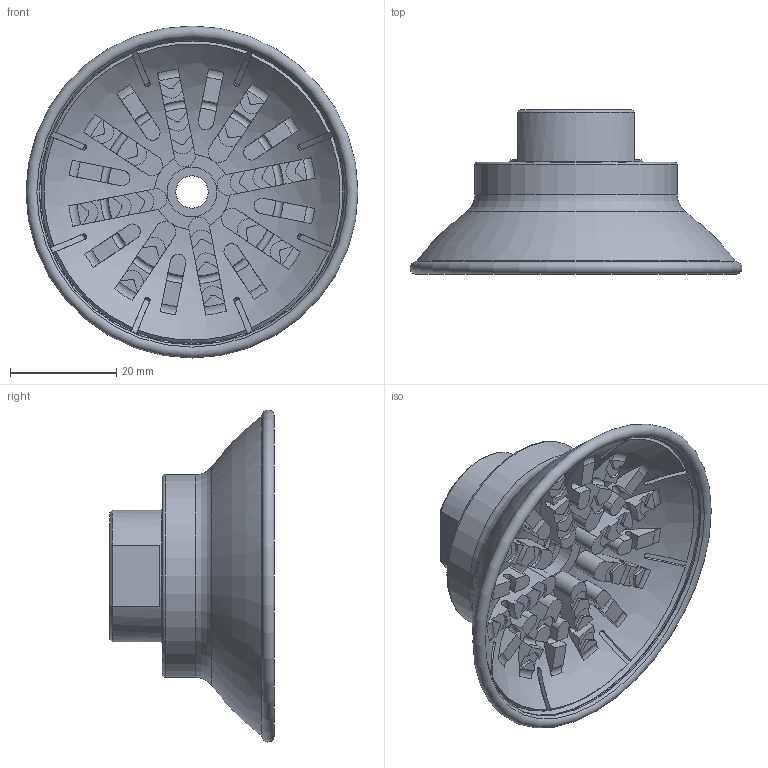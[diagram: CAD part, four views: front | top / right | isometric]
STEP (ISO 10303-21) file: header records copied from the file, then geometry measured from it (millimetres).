
FILE_DESCRIPTION (( 'STEP AP203' ), '1' );
FILE_NAME ('7R 62--F38.STEP', '2022-07-25T14:10:34', ( '' ), ( '' ), 'SwSTEP 2.0', 'SolidWorks 2021', '' );
FILE_SCHEMA (( 'CONFIG_CONTROL_DESIGN' ));
Length unit declared in the file: millimetre
Products named in the file (1): 7R 62--F38
Bounding box: 62.46 x 30.94 x 62.46 mm (x, y, z)
Volume: 21787.3 mm3; surface area: 15832.7 mm2
Topology: 2 solids, 2 shells, 411 faces, 1127 edges, 739 vertices
Faces by surface type: plane 217, cylinder 115, torus 62, cone 14, bspline 3
Full cylindrical faces by diameter (mm): 6.1 x1, 9.394 x1, 24.8 x1, 30.5 x4, 33.5 x2, 38.076 x1
Entity records: 16240 total; most frequent: CARTESIAN_POINT 6092, ORIENTED_EDGE 2170, DIRECTION 1962, EDGE_CURVE 1085, VERTEX_POINT 732, AXIS2_PLACEMENT_3D 684, LINE 594, VECTOR 594
